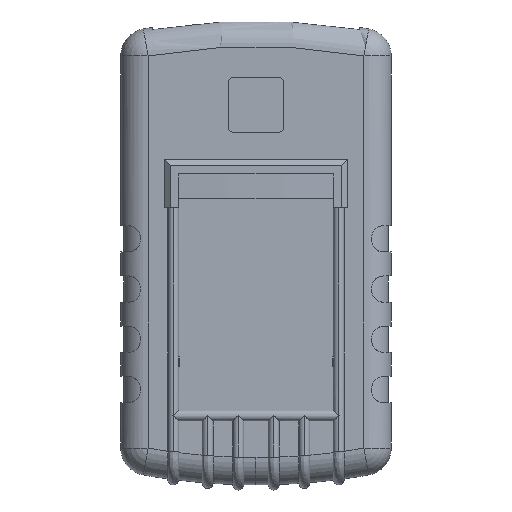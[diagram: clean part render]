
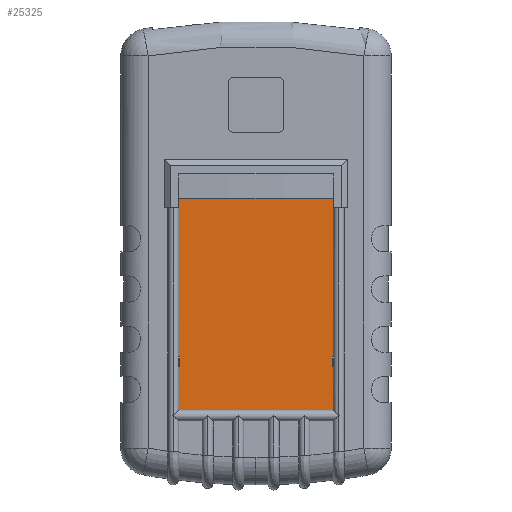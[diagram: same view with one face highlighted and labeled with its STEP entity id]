
A CAD part, front view. The second image highlights one B-rep face of the part: STEP entity #25325.
In plain terms, the highlighted planar face has unit normal (0, -1, 0).
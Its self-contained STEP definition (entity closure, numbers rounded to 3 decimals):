
#233 = VERTEX_POINT ( 'NONE', #18318 ) ;
#725 = VERTEX_POINT ( 'NONE', #31244 ) ;
#1086 = CARTESIAN_POINT ( 'NONE',  ( -25.4, 0., 17.72 ) ) ;
#1364 = VECTOR ( 'NONE', #33435, 1000. ) ;
#1457 = CARTESIAN_POINT ( 'NONE',  ( 25.121, 0., -37.665 ) ) ;
#1621 = DIRECTION ( 'NONE',  ( 0., 0., 1. ) ) ;
#2006 = EDGE_CURVE ( 'NONE', #233, #23733, #26895, .T. ) ;
#2085 = LINE ( 'NONE', #5135, #22917 ) ;
#2683 = DIRECTION ( 'NONE',  ( 0., 0., 1. ) ) ;
#2734 = LINE ( 'NONE', #34139, #10822 ) ;
#3494 = LINE ( 'NONE', #14580, #1364 ) ;
#3572 = EDGE_CURVE ( 'NONE', #26147, #4780, #6804, .T. ) ;
#3617 = LINE ( 'NONE', #34066, #16825 ) ;
#4365 = EDGE_CURVE ( 'NONE', #23733, #27991, #23391, .T. ) ;
#4780 = VERTEX_POINT ( 'NONE', #9752 ) ;
#5135 = CARTESIAN_POINT ( 'NONE',  ( 0., 0., -37.665 ) ) ;
#6768 = CARTESIAN_POINT ( 'NONE',  ( 25.4, 0., -51.953 ) ) ;
#6804 = LINE ( 'NONE', #18564, #28490 ) ;
#6919 = PLANE ( 'NONE',  #29401 ) ;
#7550 = VERTEX_POINT ( 'NONE', #8150 ) ;
#7775 = EDGE_CURVE ( 'NONE', #19697, #18829, #25709, .T. ) ;
#8088 = VECTOR ( 'NONE', #21412, 1000. ) ;
#8150 = CARTESIAN_POINT ( 'NONE',  ( -25.121, 0., -37.665 ) ) ;
#8405 = VECTOR ( 'NONE', #14564, 1000. ) ;
#8564 = VECTOR ( 'NONE', #30011, 1000. ) ;
#8707 = CARTESIAN_POINT ( 'NONE',  ( 25.4, 0., 17.72 ) ) ;
#9013 = ORIENTED_EDGE ( 'NONE', *, *, #4365, .F. ) ;
#9208 = DIRECTION ( 'NONE',  ( 0., 0., -1. ) ) ;
#9239 = EDGE_CURVE ( 'NONE', #31092, #18829, #12073, .T. ) ;
#9637 = ORIENTED_EDGE ( 'NONE', *, *, #7775, .F. ) ;
#9752 = CARTESIAN_POINT ( 'NONE',  ( -25.121, 0., -34.49 ) ) ;
#9831 = CARTESIAN_POINT ( 'NONE',  ( 25.4, 0., 14.545 ) ) ;
#10440 = ORIENTED_EDGE ( 'NONE', *, *, #2006, .F. ) ;
#10822 = VECTOR ( 'NONE', #31499, 1000. ) ;
#10854 = ORIENTED_EDGE ( 'NONE', *, *, #30907, .F. ) ;
#11660 = CARTESIAN_POINT ( 'NONE',  ( 27.305, 0., -51.953 ) ) ;
#11741 = ORIENTED_EDGE ( 'NONE', *, *, #3572, .T. ) ;
#12073 = LINE ( 'NONE', #30220, #29066 ) ;
#12739 = DIRECTION ( 'NONE',  ( 0., 0., -1. ) ) ;
#13163 = LINE ( 'NONE', #26225, #17843 ) ;
#13174 = CARTESIAN_POINT ( 'NONE',  ( 0., 0., -34.49 ) ) ;
#14162 = EDGE_CURVE ( 'NONE', #22597, #19697, #30053, .T. ) ;
#14526 = DIRECTION ( 'NONE',  ( -1., 0., 0. ) ) ;
#14564 = DIRECTION ( 'NONE',  ( 1., 0., 0. ) ) ;
#14580 = CARTESIAN_POINT ( 'NONE',  ( -25.4, 0., -65.704 ) ) ;
#15109 = EDGE_CURVE ( 'NONE', #19872, #22597, #3617, .T. ) ;
#15954 = DIRECTION ( 'NONE',  ( 1., 0., 0. ) ) ;
#15955 = ORIENTED_EDGE ( 'NONE', *, *, #27459, .F. ) ;
#16023 = EDGE_CURVE ( 'NONE', #4780, #7550, #2734, .T. ) ;
#16825 = VECTOR ( 'NONE', #1621, 1000. ) ;
#17753 = DIRECTION ( 'NONE',  ( 0., -1., 0. ) ) ;
#17843 = VECTOR ( 'NONE', #34431, 1000. ) ;
#17968 = VECTOR ( 'NONE', #12739, 1000. ) ;
#18318 = CARTESIAN_POINT ( 'NONE',  ( 25.121, 0., -34.49 ) ) ;
#18458 = DIRECTION ( 'NONE',  ( -1., 0., 0. ) ) ;
#18564 = CARTESIAN_POINT ( 'NONE',  ( 0., 0., -34.49 ) ) ;
#18829 = VERTEX_POINT ( 'NONE', #9831 ) ;
#19216 = ORIENTED_EDGE ( 'NONE', *, *, #26293, .F. ) ;
#19544 = CARTESIAN_POINT ( 'NONE',  ( 25.4, 0., -37.665 ) ) ;
#19688 = ORIENTED_EDGE ( 'NONE', *, *, #33222, .T. ) ;
#19697 = VERTEX_POINT ( 'NONE', #8707 ) ;
#19872 = VERTEX_POINT ( 'NONE', #31320 ) ;
#19874 = EDGE_CURVE ( 'NONE', #34592, #725, #13163, .T. ) ;
#21412 = DIRECTION ( 'NONE',  ( 1., 0., 0. ) ) ;
#22385 = ORIENTED_EDGE ( 'NONE', *, *, #30610, .T. ) ;
#22597 = VERTEX_POINT ( 'NONE', #1086 ) ;
#22917 = VECTOR ( 'NONE', #18458, 1000. ) ;
#22961 = CARTESIAN_POINT ( 'NONE',  ( 0., 0., 0. ) ) ;
#23084 = LINE ( 'NONE', #33596, #25208 ) ;
#23391 = LINE ( 'NONE', #35184, #8088 ) ;
#23733 = VERTEX_POINT ( 'NONE', #1457 ) ;
#23943 = LINE ( 'NONE', #11660, #31138 ) ;
#24542 = ORIENTED_EDGE ( 'NONE', *, *, #19874, .F. ) ;
#25033 = CARTESIAN_POINT ( 'NONE',  ( -25.4, 0., -34.49 ) ) ;
#25208 = VECTOR ( 'NONE', #31085, 1000. ) ;
#25241 = FACE_OUTER_BOUND ( 'NONE', #31471, .T. ) ;
#25325 = ADVANCED_FACE ( 'NONE', ( #25241 ), #6919, .T. ) ;
#25535 = ORIENTED_EDGE ( 'NONE', *, *, #9239, .T. ) ;
#25709 = LINE ( 'NONE', #31357, #28256 ) ;
#25950 = LINE ( 'NONE', #13174, #8564 ) ;
#26147 = VERTEX_POINT ( 'NONE', #25033 ) ;
#26225 = CARTESIAN_POINT ( 'NONE',  ( -25.4, 0., -65.704 ) ) ;
#26293 = EDGE_CURVE ( 'NONE', #26147, #19872, #3494, .T. ) ;
#26895 = LINE ( 'NONE', #34597, #17968 ) ;
#27459 = EDGE_CURVE ( 'NONE', #31092, #233, #25950, .T. ) ;
#27503 = CARTESIAN_POINT ( 'NONE',  ( -25.4, 0., 17.72 ) ) ;
#27991 = VERTEX_POINT ( 'NONE', #19544 ) ;
#28256 = VECTOR ( 'NONE', #34587, 1000. ) ;
#28490 = VECTOR ( 'NONE', #15954, 1000. ) ;
#28993 = CARTESIAN_POINT ( 'NONE',  ( 25.4, 0., -34.49 ) ) ;
#29066 = VECTOR ( 'NONE', #2683, 1000. ) ;
#29401 = AXIS2_PLACEMENT_3D ( 'NONE', #22961, #17753, #9208 ) ;
#30011 = DIRECTION ( 'NONE',  ( -1., 0., 0. ) ) ;
#30053 = LINE ( 'NONE', #27503, #8405 ) ;
#30220 = CARTESIAN_POINT ( 'NONE',  ( 25.4, 0., -65.704 ) ) ;
#30314 = ORIENTED_EDGE ( 'NONE', *, *, #15109, .F. ) ;
#30565 = ORIENTED_EDGE ( 'NONE', *, *, #16023, .T. ) ;
#30610 = EDGE_CURVE ( 'NONE', #30959, #27991, #23084, .T. ) ;
#30907 = EDGE_CURVE ( 'NONE', #30959, #34592, #23943, .T. ) ;
#30959 = VERTEX_POINT ( 'NONE', #6768 ) ;
#31085 = DIRECTION ( 'NONE',  ( 0., 0., 1. ) ) ;
#31092 = VERTEX_POINT ( 'NONE', #28993 ) ;
#31138 = VECTOR ( 'NONE', #14526, 1000. ) ;
#31244 = CARTESIAN_POINT ( 'NONE',  ( -25.4, 0., -37.665 ) ) ;
#31320 = CARTESIAN_POINT ( 'NONE',  ( -25.4, 0., 14.545 ) ) ;
#31357 = CARTESIAN_POINT ( 'NONE',  ( 25.4, 0., 14.545 ) ) ;
#31471 = EDGE_LOOP ( 'NONE', ( #15955, #25535, #9637, #31492, #30314, #19216, #11741, #30565, #19688, #24542, #10854, #22385, #9013, #10440 ) ) ;
#31492 = ORIENTED_EDGE ( 'NONE', *, *, #14162, .F. ) ;
#31499 = DIRECTION ( 'NONE',  ( 0., 0., -1. ) ) ;
#33222 = EDGE_CURVE ( 'NONE', #7550, #725, #2085, .T. ) ;
#33435 = DIRECTION ( 'NONE',  ( 0., 0., 1. ) ) ;
#33596 = CARTESIAN_POINT ( 'NONE',  ( 25.4, 0., -65.704 ) ) ;
#34066 = CARTESIAN_POINT ( 'NONE',  ( -25.4, 0., 25.644 ) ) ;
#34139 = CARTESIAN_POINT ( 'NONE',  ( -25.121, 0., 0. ) ) ;
#34234 = CARTESIAN_POINT ( 'NONE',  ( -25.4, 0., -51.953 ) ) ;
#34431 = DIRECTION ( 'NONE',  ( 0., 0., 1. ) ) ;
#34587 = DIRECTION ( 'NONE',  ( 0., 0., -1. ) ) ;
#34592 = VERTEX_POINT ( 'NONE', #34234 ) ;
#34597 = CARTESIAN_POINT ( 'NONE',  ( 25.121, 0., 0. ) ) ;
#35184 = CARTESIAN_POINT ( 'NONE',  ( 0., 0., -37.665 ) ) ;
